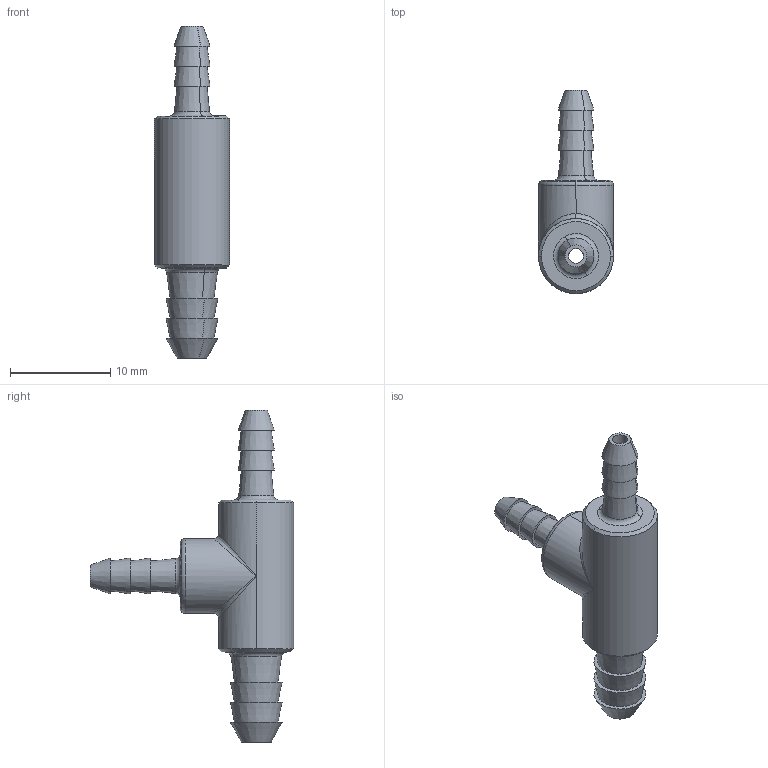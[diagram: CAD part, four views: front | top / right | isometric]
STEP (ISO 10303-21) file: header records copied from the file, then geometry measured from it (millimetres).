
FILE_DESCRIPTION(('CATIA V5 STEP Exchange'),'2;1');
FILE_NAME('C:\Users\Administrator\Desktop\6-4-4BPC0010213.stp','2021-09-10T05:30:01+00:00',('none'),('none'),'CATIA Version 5 Release 20 GA (IN-10)','CATIA V5 STEP AP203','none');
FILE_SCHEMA(('CONFIG_CONTROL_DESIGN'));
Length unit declared in the file: millimetre
Products named in the file (1): 6-4-4tong zhu jie jietou
Bounding box: 7.5 x 20.35 x 33.2 mm (x, y, z)
Volume: 1027.1 mm3; surface area: 1143.1 mm2
Topology: 1 solids, 1 shells, 69 faces, 152 edges, 93 vertices
Faces by surface type: cone 30, plane 16, cylinder 11, torus 8, bspline 4
Entity records: 2218 total; most frequent: CARTESIAN_POINT 790, ORIENTED_EDGE 292, DIRECTION 227, EDGE_CURVE 146, AXIS2_PLACEMENT_3D 138, CIRCLE 90, VERTEX_POINT 90, EDGE_LOOP 84
